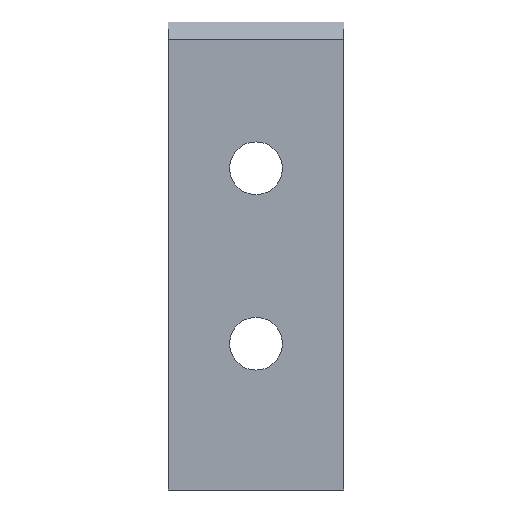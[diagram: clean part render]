
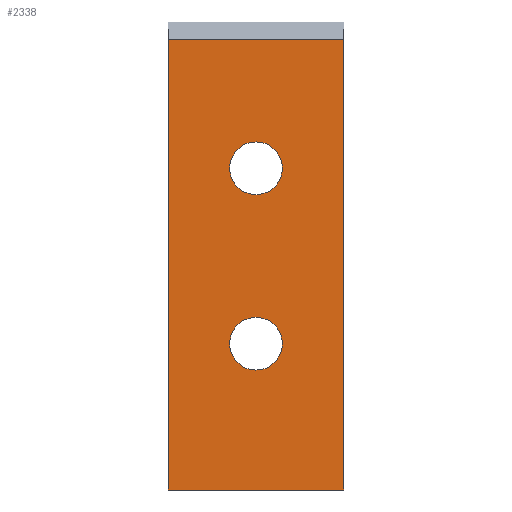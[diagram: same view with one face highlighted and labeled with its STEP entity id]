
A CAD part, front view. The second image highlights one B-rep face of the part: STEP entity #2338.
In plain terms, the highlighted planar face has unit normal (0, -1, 0).
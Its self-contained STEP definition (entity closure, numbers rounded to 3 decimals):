
#147 = ORIENTED_EDGE ( 'NONE', *, *, #1827, .T. ) ;
#200 = EDGE_CURVE ( 'NONE', #678, #1569, #2054, .T. ) ;
#286 = DIRECTION ( 'NONE',  ( 0., 0., -1. ) ) ;
#333 = CARTESIAN_POINT ( 'NONE',  ( 0., 0., 38.5 ) ) ;
#508 = VECTOR ( 'NONE', #2715, 1000. ) ;
#535 = ORIENTED_EDGE ( 'NONE', *, *, #1963, .F. ) ;
#599 = DIRECTION ( 'NONE',  ( 0., -1., 0. ) ) ;
#648 = VERTEX_POINT ( 'NONE', #1451 ) ;
#660 = DIRECTION ( 'NONE',  ( 1., 0., 0. ) ) ;
#677 = VERTEX_POINT ( 'NONE', #1172 ) ;
#678 = VERTEX_POINT ( 'NONE', #1042 ) ;
#723 = CIRCLE ( 'NONE', #1150, 4.5 ) ;
#745 = EDGE_CURVE ( 'NONE', #677, #648, #2842, .T. ) ;
#841 = VERTEX_POINT ( 'NONE', #2017 ) ;
#937 = EDGE_CURVE ( 'NONE', #2313, #2387, #3158, .T. ) ;
#1042 = CARTESIAN_POINT ( 'NONE',  ( 10.5, 0., 25. ) ) ;
#1150 = AXIS2_PLACEMENT_3D ( 'NONE', #1541, #1518, #1503 ) ;
#1172 = CARTESIAN_POINT ( 'NONE',  ( 0., 0., 0. ) ) ;
#1213 = ORIENTED_EDGE ( 'NONE', *, *, #2699, .F. ) ;
#1227 = ORIENTED_EDGE ( 'NONE', *, *, #937, .F. ) ;
#1273 = EDGE_CURVE ( 'NONE', #2387, #648, #2087, .T. ) ;
#1392 = FACE_BOUND ( 'NONE', #2371, .T. ) ;
#1451 = CARTESIAN_POINT ( 'NONE',  ( 30., 0., 0. ) ) ;
#1483 = FACE_BOUND ( 'NONE', #3294, .T. ) ;
#1503 = DIRECTION ( 'NONE',  ( 1., 0., 0. ) ) ;
#1518 = DIRECTION ( 'NONE',  ( 0., -1., 0. ) ) ;
#1541 = CARTESIAN_POINT ( 'NONE',  ( 15., 0., 55. ) ) ;
#1569 = VERTEX_POINT ( 'NONE', #3336 ) ;
#1653 = CARTESIAN_POINT ( 'NONE',  ( 15., 0., 0. ) ) ;
#1765 = DIRECTION ( 'NONE',  ( 1., 0., 0. ) ) ;
#1797 = DIRECTION ( 'NONE',  ( 0., -1., 0. ) ) ;
#1805 = ORIENTED_EDGE ( 'NONE', *, *, #1273, .F. ) ;
#1827 = EDGE_CURVE ( 'NONE', #2313, #677, #2121, .T. ) ;
#1860 = CARTESIAN_POINT ( 'NONE',  ( 30., 0., 77. ) ) ;
#1963 = EDGE_CURVE ( 'NONE', #1569, #678, #3246, .T. ) ;
#2004 = VECTOR ( 'NONE', #3103, 1000. ) ;
#2017 = CARTESIAN_POINT ( 'NONE',  ( 10.5, 0., 55. ) ) ;
#2048 = CARTESIAN_POINT ( 'NONE',  ( 15., 0., 25. ) ) ;
#2054 = CIRCLE ( 'NONE', #3120, 4.5 ) ;
#2087 = LINE ( 'NONE', #3026, #2004 ) ;
#2092 = DIRECTION ( 'NONE',  ( 0., -1., 0. ) ) ;
#2121 = LINE ( 'NONE', #333, #2766 ) ;
#2152 = FACE_OUTER_BOUND ( 'NONE', #2455, .T. ) ;
#2313 = VERTEX_POINT ( 'NONE', #2507 ) ;
#2338 = ADVANCED_FACE ( 'NONE', ( #2152, #1392, #1483 ), #2463, .T. ) ;
#2371 = EDGE_LOOP ( 'NONE', ( #3193, #535 ) ) ;
#2387 = VERTEX_POINT ( 'NONE', #1860 ) ;
#2399 = CARTESIAN_POINT ( 'NONE',  ( 15., 0., 25. ) ) ;
#2433 = DIRECTION ( 'NONE',  ( 0., 0., -1. ) ) ;
#2440 = DIRECTION ( 'NONE',  ( 0., -1., 0. ) ) ;
#2441 = AXIS2_PLACEMENT_3D ( 'NONE', #2877, #2092, #1765 ) ;
#2455 = EDGE_LOOP ( 'NONE', ( #147, #3031, #1805, #1227 ) ) ;
#2463 = PLANE ( 'NONE',  #2791 ) ;
#2507 = CARTESIAN_POINT ( 'NONE',  ( 0., 0., 77. ) ) ;
#2542 = CARTESIAN_POINT ( 'NONE',  ( 0., 0., 80. ) ) ;
#2600 = AXIS2_PLACEMENT_3D ( 'NONE', #2048, #599, #3356 ) ;
#2699 = EDGE_CURVE ( 'NONE', #841, #3355, #2998, .T. ) ;
#2715 = DIRECTION ( 'NONE',  ( 1., 0., 0. ) ) ;
#2752 = EDGE_CURVE ( 'NONE', #3355, #841, #723, .T. ) ;
#2766 = VECTOR ( 'NONE', #286, 1000. ) ;
#2791 = AXIS2_PLACEMENT_3D ( 'NONE', #2542, #2440, #2433 ) ;
#2807 = CARTESIAN_POINT ( 'NONE',  ( 19.5, 0., 55. ) ) ;
#2842 = LINE ( 'NONE', #1653, #2933 ) ;
#2877 = CARTESIAN_POINT ( 'NONE',  ( 15., 0., 55. ) ) ;
#2879 = DIRECTION ( 'NONE',  ( 1., 0., 0. ) ) ;
#2933 = VECTOR ( 'NONE', #660, 1000. ) ;
#2998 = CIRCLE ( 'NONE', #2441, 4.5 ) ;
#3026 = CARTESIAN_POINT ( 'NONE',  ( 30., 0., 38.5 ) ) ;
#3031 = ORIENTED_EDGE ( 'NONE', *, *, #745, .T. ) ;
#3103 = DIRECTION ( 'NONE',  ( 0., 0., -1. ) ) ;
#3120 = AXIS2_PLACEMENT_3D ( 'NONE', #2399, #1797, #2879 ) ;
#3158 = LINE ( 'NONE', #3448, #508 ) ;
#3193 = ORIENTED_EDGE ( 'NONE', *, *, #200, .F. ) ;
#3246 = CIRCLE ( 'NONE', #2600, 4.5 ) ;
#3294 = EDGE_LOOP ( 'NONE', ( #3364, #1213 ) ) ;
#3336 = CARTESIAN_POINT ( 'NONE',  ( 19.5, 0., 25. ) ) ;
#3355 = VERTEX_POINT ( 'NONE', #2807 ) ;
#3356 = DIRECTION ( 'NONE',  ( 1., 0., 0. ) ) ;
#3364 = ORIENTED_EDGE ( 'NONE', *, *, #2752, .F. ) ;
#3448 = CARTESIAN_POINT ( 'NONE',  ( 15., 0., 77. ) ) ;
